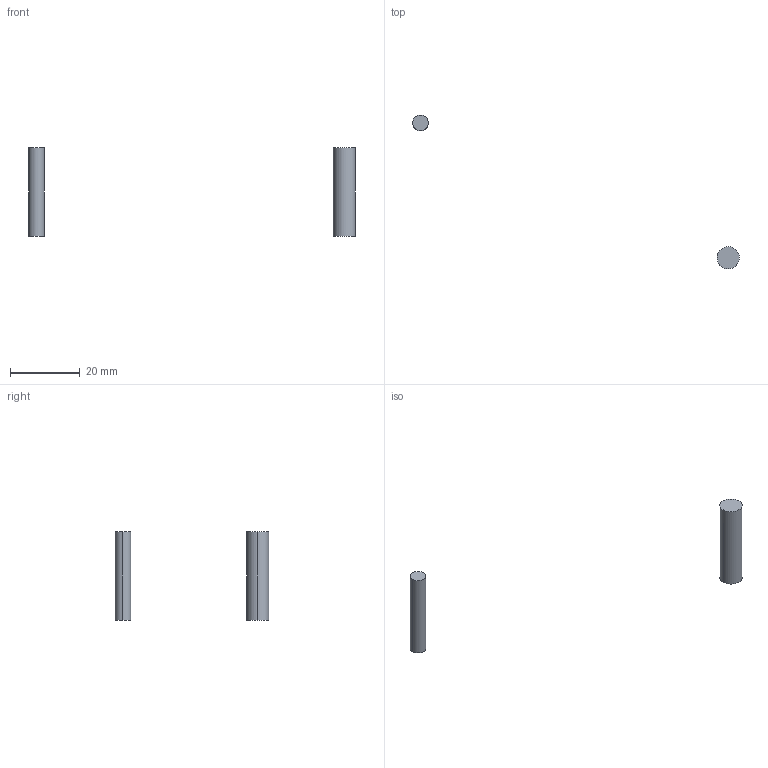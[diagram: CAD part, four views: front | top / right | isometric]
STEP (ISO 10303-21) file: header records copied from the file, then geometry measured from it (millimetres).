
FILE_DESCRIPTION (( 'STEP AP214' ), '1' );
FILE_NAME ('PUNCH dia0.25.STEP', '2020-05-25T15:57:14', ( '' ), ( '' ), 'SwSTEP 2.0', 'SolidWorks 2020', '' );
FILE_SCHEMA (( 'AUTOMOTIVE_DESIGN' ));
Length unit declared in the file: inch
Products named in the file (1): PUNCH dia0.25
Bounding box: 93.79 x 44.12 x 25.4 mm (x, y, z)
Volume: 1212.8 mm3; surface area: 963.2 mm2
Topology: 2 solids, 2 shells, 8 faces, 12 edges, 8 vertices
Faces by surface type: cylinder 4, plane 4
Entity records: 235 total; most frequent: DIRECTION 38, CARTESIAN_POINT 29, ORIENTED_EDGE 24, AXIS2_PLACEMENT_3D 17, EDGE_CURVE 12, CIRCLE 8, VERTEX_POINT 8, EDGE_LOOP 8
